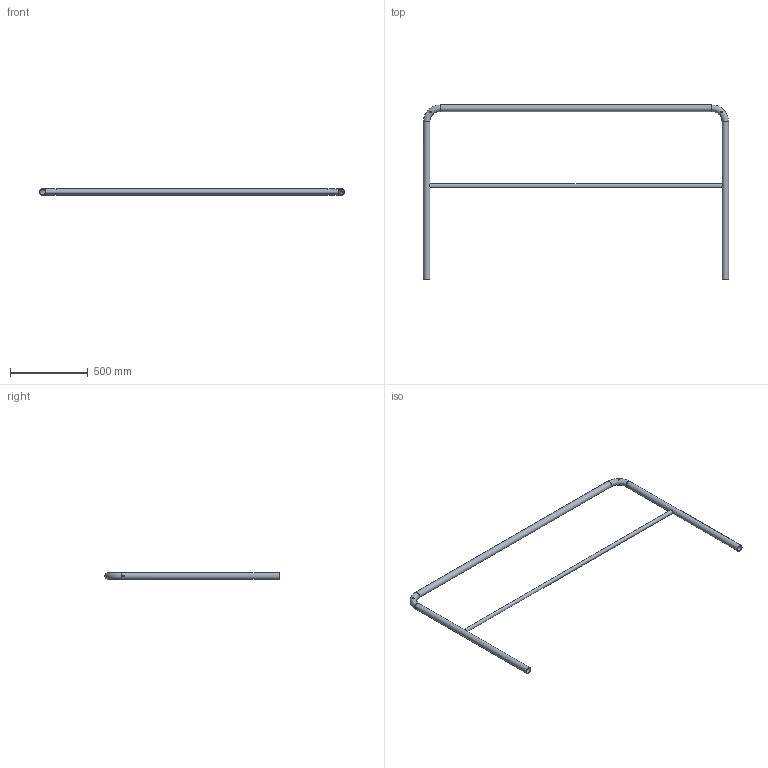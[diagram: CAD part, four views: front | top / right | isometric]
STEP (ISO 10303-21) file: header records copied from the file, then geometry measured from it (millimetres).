
FILE_DESCRIPTION((''),'2;1');
FILE_NAME('S:\Användarkataloger\AndreasA\Mina Inventor filer\Räcken\STEP\modul_ind_2000-1100.stp','2010-09-07T13:10:07',('AndreasA'),(''),'Autodesk Inventor 2011','Autodesk Inventor 2011','');
FILE_SCHEMA(('AUTOMOTIVE_DESIGN { 1 0 10303 214 1 1 1 1 }'));
Length unit declared in the file: millimetre
Products named in the file (3): modul_ind_2000-1100; handledare_modul_2000-1100; mellanliggare_modul_2000
Assembly tree (2 placements, depth 2):
  modul_ind_2000-1100
    handledare_modul_2000-1100
    mellanliggare_modul_2000
Bounding box: 1965.4 x 1121.2 x 42.4 mm (x, y, z)
Volume: 1298108.5 mm3; surface area: 1299441.7 mm2
Topology: 2 solids, 2 shells, 24 faces, 64 edges, 40 vertices
Faces by surface type: cylinder 16, torus 4, plane 4
Full cylindrical faces by diameter (mm): 10 x4, 11 x4, 21 x1, 25 x1, 38.4 x3, 42.4 x3
Entity records: 1354 total; most frequent: CARTESIAN_POINT 809, DIRECTION 90, ORIENTED_EDGE 64, EDGE_LOOP 64, AXIS2_PLACEMENT_3D 45, FACE_BOUND 40, VERTEX_POINT 32, EDGE_CURVE 32
